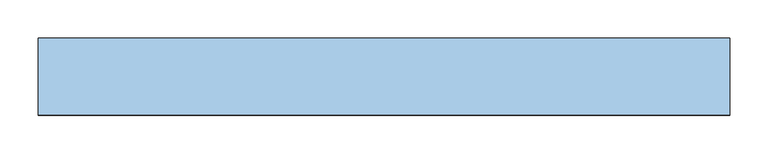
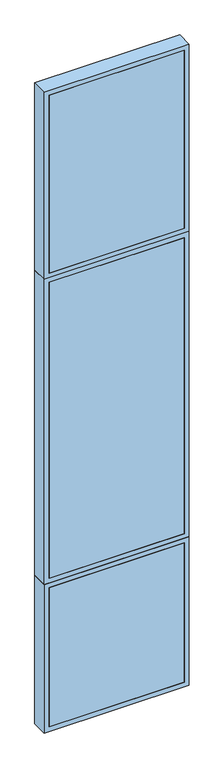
"""IFC4 building model written with IfcOpenShell, lengths in millimetres: window geometry, TRP_CP_ARC_FI_V1 : AL_P01_90_420."""

from ifc_helpers import new_model, si_unit, frame, origin, place, context, project, spatial, polyline, outline, extrude, source, transform, mapped, element, save


def window_40431090(model_context):
    return source(origin(), model_context, "Body", "SweptSolid", [
        extrude(outline(polyline([(420.0, -50.0), (-420.0, -50.0), (-420.0, -30.0), (420.0, -30.0), (420.0, -50.0)])), frame((0.0, 0.0, 30.0), z_axis=(0.0, 0.0, 1.0), x_axis=(1.0, 0.0, 0.0)), (0.0, 0.0, 1.0), 913.0),
        extrude(outline(polyline([(973.0, 450.0), (973.0, -450.0), (0.0, -450.0), (0.0, 450.0), (973.0, 450.0)]), holes=[polyline([(30.0, 420.0), (30.0, -420.0), (943.0, -420.0), (943.0, 420.0), (30.0, 420.0)])]), frame((0.0, -50.0, 0.0), z_axis=(0.0, 1.0, 0.0), x_axis=(0.0, 0.0, 1.0)), (0.0, 0.0, 1.0), 100.0),
        extrude(outline(polyline([(2973.0, 450.0), (2973.0, -450.0), (973.0, -450.0), (973.0, 450.0), (2973.0, 450.0)]), holes=[polyline([(1003.0, 420.0), (1003.0, -420.0), (2943.0, -420.0), (2943.0, 420.0), (1003.0, 420.0)])]), frame((0.0, -50.0, 0.0), z_axis=(0.0, 1.0, 0.0), x_axis=(0.0, 0.0, 1.0)), (0.0, 0.0, 1.0), 100.0),
        extrude(outline(polyline([(420.0, -50.0), (-420.0, -50.0), (-420.0, -30.0), (420.0, -30.0), (420.0, -50.0)])), frame((0.0, 0.0, 1003.0), z_axis=(0.0, 0.0, 1.0), x_axis=(1.0, 0.0, 0.0)), (0.0, 0.0, 1.0), 1940.0),
        extrude(outline(polyline([(4200.0, 450.0), (4200.0, -450.0), (2973.0, -450.0), (2973.0, 450.0), (4200.0, 450.0)]), holes=[polyline([(3003.0, 420.0), (3003.0, -420.0), (4170.0, -420.0), (4170.0, 420.0), (3003.0, 420.0)])]), frame((0.0, -50.0, 0.0), z_axis=(0.0, 1.0, 0.0), x_axis=(0.0, 0.0, 1.0)), (0.0, 0.0, 1.0), 100.0),
        extrude(outline(polyline([(420.0, -50.0), (-420.0, -50.0), (-420.0, -30.0), (420.0, -30.0), (420.0, -50.0)])), frame((0.0, 0.0, 3003.0), z_axis=(0.0, 0.0, 1.0), x_axis=(1.0, 0.0, 0.0)), (0.0, 0.0, 1.0), 1167.0),
    ])


if __name__ == "__main__":
    model = new_model("IFC4")
    model_context = context("Model", 3, world=origin())
    ifc_project = project(units=[si_unit("LENGTHUNIT", "METRE", prefix="MILLI")], contexts=[model_context])
    site = spatial("IfcSite", under=ifc_project)
    building = spatial("IfcBuilding", under=site)
    placement = place(None, origin())
    window_shape = window_40431090(model_context)
    element("IfcWindow", 1, ObjectType="TRP_CP_ARC_FI_V1 : AL_P01_90_420", at=placement, inside=building, context=model_context, shape_type="MappedRepresentation", body=[
        mapped(window_shape, transform((0.0, 0.0, 0.0), x_axis=(1.0, 0.0, 0.0), y_axis=(0.0, 1.0, 0.0), z_axis=(0.0, 0.0, 1.0))),
    ])
    save(model, "model.ifc")
